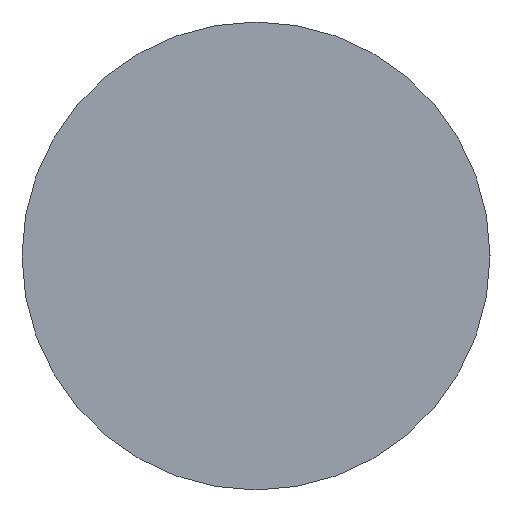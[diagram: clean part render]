
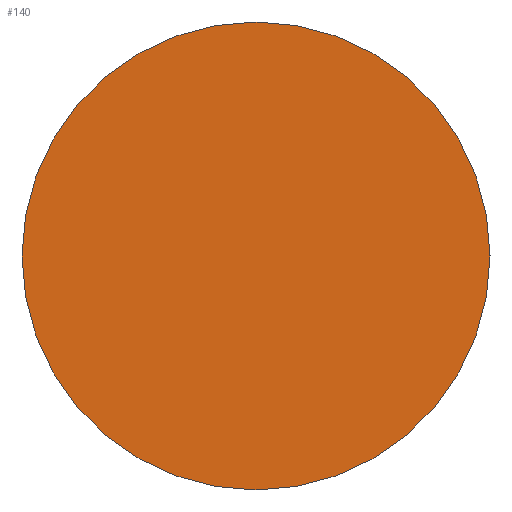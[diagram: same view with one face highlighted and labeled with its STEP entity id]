
A CAD part, left-side view. The second image highlights one B-rep face of the part: STEP entity #140.
In plain terms, the highlighted planar face has unit normal (-1, 0, 0).
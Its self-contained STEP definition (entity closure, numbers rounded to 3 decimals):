
#31 = CYLINDRICAL_SURFACE('',#32,1.55);
#32 = AXIS2_PLACEMENT_3D('',#33,#34,#35);
#33 = CARTESIAN_POINT('',(26.5,-28.95,3.45));
#34 = DIRECTION('',(1.,0.,0.));
#35 = DIRECTION('',(0.,0.,-1.));
#56 = VERTEX_POINT('',#57);
#57 = CARTESIAN_POINT('',(26.5,-28.95,1.9));
#78 = EDGE_CURVE('',#56,#56,#79,.T.);
#79 = SURFACE_CURVE('',#80,(#85,#92),.PCURVE_S1.);
#80 = CIRCLE('',#81,1.55);
#81 = AXIS2_PLACEMENT_3D('',#82,#83,#84);
#82 = CARTESIAN_POINT('',(26.5,-28.95,3.45));
#83 = DIRECTION('',(1.,-0.,0.));
#84 = DIRECTION('',(0.,0.,-1.));
#85 = PCURVE('',#31,#86);
#86 = DEFINITIONAL_REPRESENTATION('',(#87),#91);
#87 = LINE('',#88,#89);
#88 = CARTESIAN_POINT('',(0.,0.));
#89 = VECTOR('',#90,1.);
#90 = DIRECTION('',(1.,0.));
#91 = ( GEOMETRIC_REPRESENTATION_CONTEXT(2) 
PARAMETRIC_REPRESENTATION_CONTEXT() REPRESENTATION_CONTEXT('2D SPACE',''
  ) );
#92 = PCURVE('',#93,#98);
#93 = PLANE('',#94);
#94 = AXIS2_PLACEMENT_3D('',#95,#96,#97);
#95 = CARTESIAN_POINT('',(26.5,-28.95,3.45));
#96 = DIRECTION('',(1.,0.,0.));
#97 = DIRECTION('',(0.,0.,-1.));
#98 = DEFINITIONAL_REPRESENTATION('',(#99),#103);
#99 = CIRCLE('',#100,1.55);
#100 = AXIS2_PLACEMENT_2D('',#101,#102);
#101 = CARTESIAN_POINT('',(0.,0.));
#102 = DIRECTION('',(1.,0.));
#103 = ( GEOMETRIC_REPRESENTATION_CONTEXT(2) 
PARAMETRIC_REPRESENTATION_CONTEXT() REPRESENTATION_CONTEXT('2D SPACE',''
  ) );
#140 = ADVANCED_FACE('',(#141),#93,.F.);
#141 = FACE_BOUND('',#142,.T.);
#142 = EDGE_LOOP('',(#143));
#143 = ORIENTED_EDGE('',*,*,#78,.F.);
